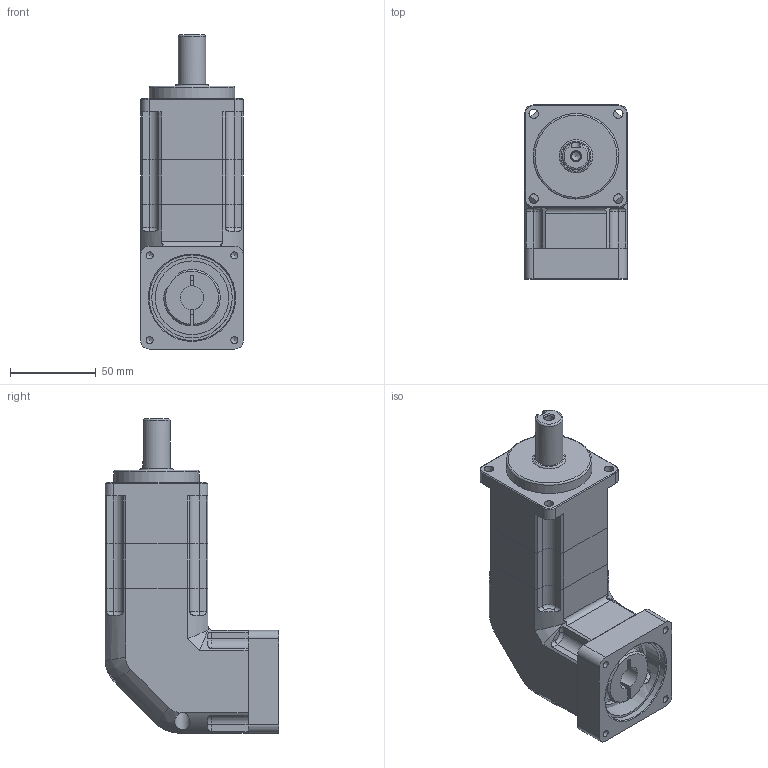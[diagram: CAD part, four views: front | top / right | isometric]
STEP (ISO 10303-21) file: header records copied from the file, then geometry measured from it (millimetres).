
FILE_DESCRIPTION((''),'2;1');
FILE_NAME('C:\Documents and Settings\nagyu\바탕 화면\유성감속기 3D\SPL060\SPL060S025~100KA.stp','2009-10-27T09:43:09',('nagyu'),(''),'Autodesk Inventor 2010','Autodesk Inventor 2010','');
FILE_SCHEMA(('AUTOMOTIVE_DESIGN { 1 0 10303 214 1 1 1 1 }'));
Length unit declared in the file: millimetre
Products named in the file (5): SPL060 2단; SPI060; SPL060 GEARCASE; 60각 INPUT ADAPTER FLANGE; 60각 CARRIER CASE
Assembly tree (4 placements, depth 2):
  SPL060 2단
    SPI060
    SPL060 GEARCASE
    60각 INPUT ADAPTER FLANGE
    60각 CARRIER CASE
Bounding box: 60 x 101.5 x 183.6 mm (x, y, z)
Volume: 522566.8 mm3; surface area: 87050.7 mm2
Topology: 5 solids, 5 shells, 269 faces, 717 edges, 470 vertices
Faces by surface type: plane 112, cylinder 102, bspline 40, cone 12, torus 3
Full cylindrical faces by diameter (mm): 4.3 x4, 7.5 x4, 10 x1, 12 x1, 14 x1, 16 x1, 20 x1, 50 x2, 51 x1, 52 x1, 54 x1
Entity records: 9407 total; most frequent: CARTESIAN_POINT 2874, ORIENTED_EDGE 1282, DIRECTION 1281, EDGE_CURVE 641, AXIS2_PLACEMENT_3D 482, VERTEX_POINT 441, EDGE_LOOP 352, VECTOR 317
